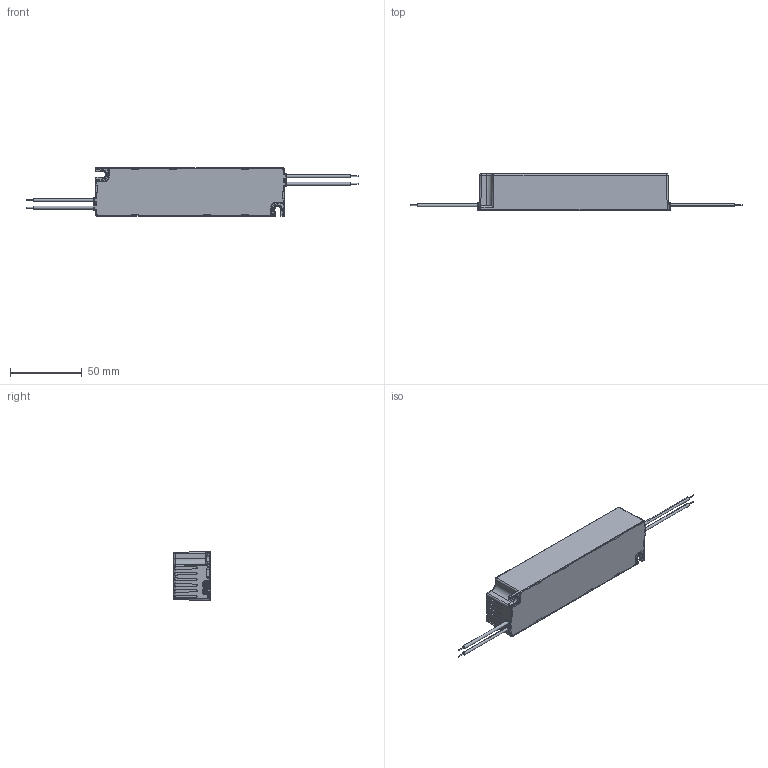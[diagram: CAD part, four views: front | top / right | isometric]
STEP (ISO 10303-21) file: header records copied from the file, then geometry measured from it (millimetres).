
FILE_DESCRIPTION((''),'2;1');
FILE_NAME('3D_JPVI-020024FA_ASM','2025-12-16T14:09:43',('HERMAN.YC.WANG'),(''),'CREO PARAMETRIC BY PTC INC, 2024014','CREO PARAMETRIC BY PTC INC, 2024014','');
FILE_SCHEMA(('CONFIG_CONTROL_DESIGN','GEOMETRIC_VALIDATION_PROPERTIES_MIM'));
Length unit declared in the file: millimetre
Products named in the file (8): WIRE-4; WIRE-1; WIRE-3; COVER; BASE0803; WIRE-2; ASS-6-7_ASM; 3D_JPVI-020024FA_ASM
Assembly tree (7 placements, depth 3):
  3D_JPVI-020024FA_ASM
    ASS-6-7_ASM
      WIRE-4
      WIRE-1
      WIRE-3
      COVER
      BASE0803
      WIRE-2
Bounding box: 231.57 x 25.4 x 33.99 mm (x, y, z)
Volume: 23790.9 mm3; surface area: 35410.5 mm2
Topology: 6 solids, 6 shells, 620 faces, 1711 edges, 1100 vertices
Faces by surface type: plane 368, cylinder 198, bspline 26, sphere 20, torus 8
Entity records: 27933 total; most frequent: CARTESIAN_POINT 6958, ORIENTED_EDGE 3382, DIRECTION 2905, PRESENTATION_STYLE_ASSIGNMENT 1706, STYLED_ITEM 1697, CURVE_STYLE 1691, EDGE_CURVE 1691, VECTOR 1165
